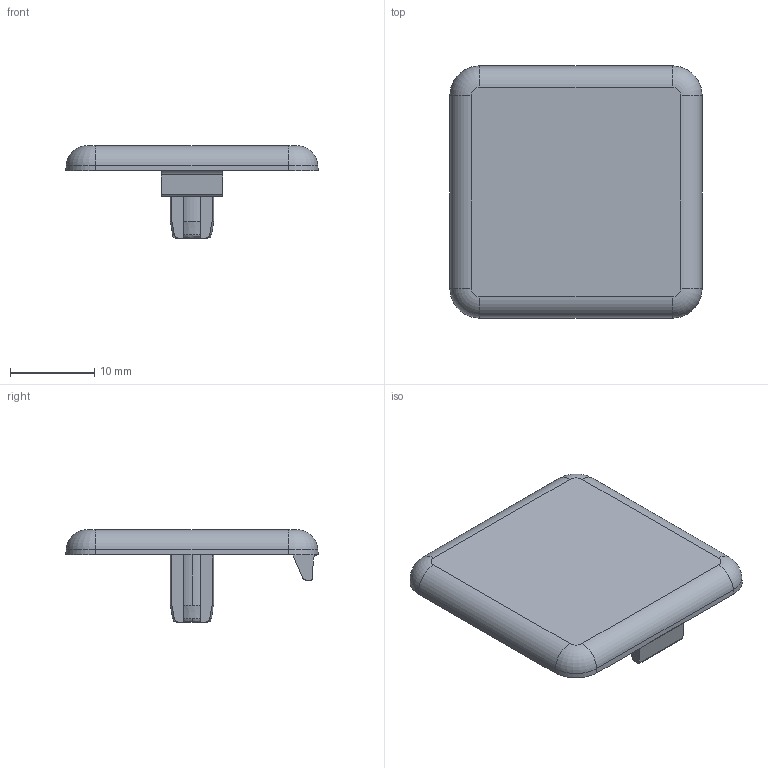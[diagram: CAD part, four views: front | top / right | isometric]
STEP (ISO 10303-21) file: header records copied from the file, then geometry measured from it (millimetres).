
FILE_DESCRIPTION (( 'STEP AP203' ), '1' );
FILE_NAME ('0106AK3030.STEP', '2024-03-07T08:49:31', ( 'Windows-Benutzer' ), ( '' ), 'SwSTEP 2.0', 'SolidWorks 2023', '' );
FILE_SCHEMA (( 'CONFIG_CONTROL_DESIGN' ));
Length unit declared in the file: millimetre
Products named in the file (1): 0106AK3030
Bounding box: 30 x 30 x 11 mm (x, y, z)
Volume: 2124.8 mm3; surface area: 2262.1 mm2
Topology: 1 solids, 1 shells, 76 faces, 200 edges, 124 vertices
Faces by surface type: plane 28, cylinder 22, bspline 9, cone 9, torus 8
Entity records: 2526 total; most frequent: CARTESIAN_POINT 631, ORIENTED_EDGE 392, DIRECTION 377, EDGE_CURVE 196, AXIS2_PLACEMENT_3D 138, VERTEX_POINT 124, VECTOR 101, LINE 101
